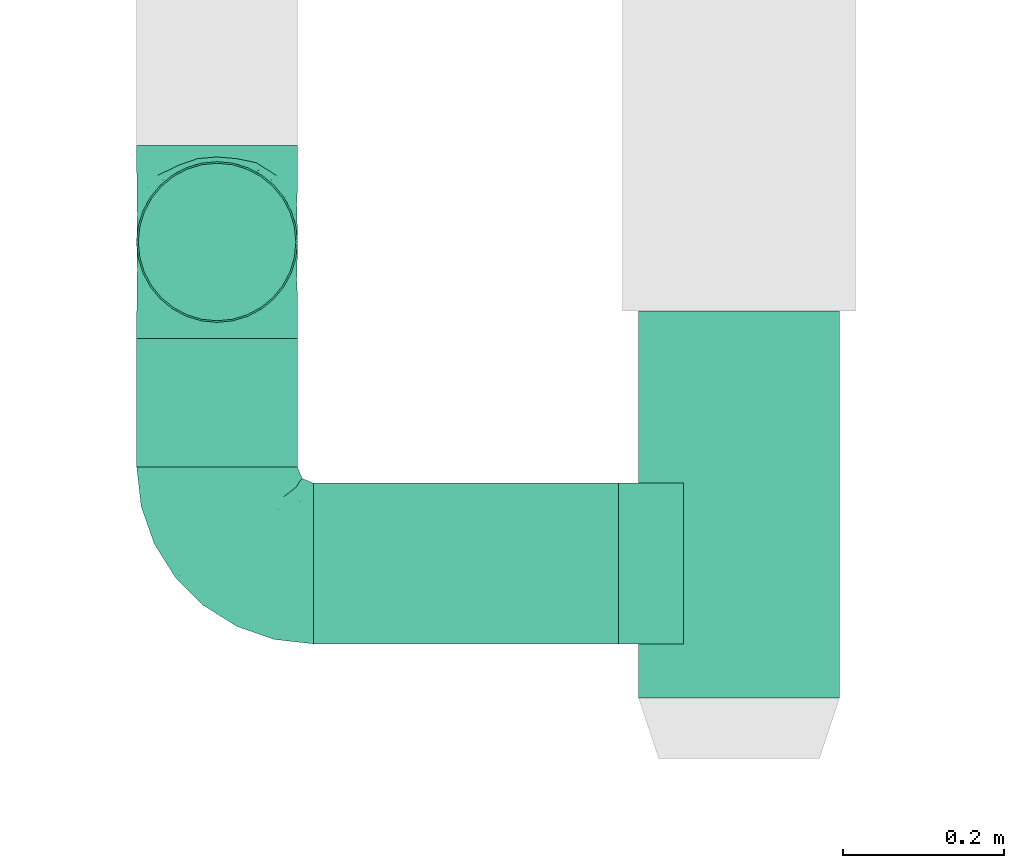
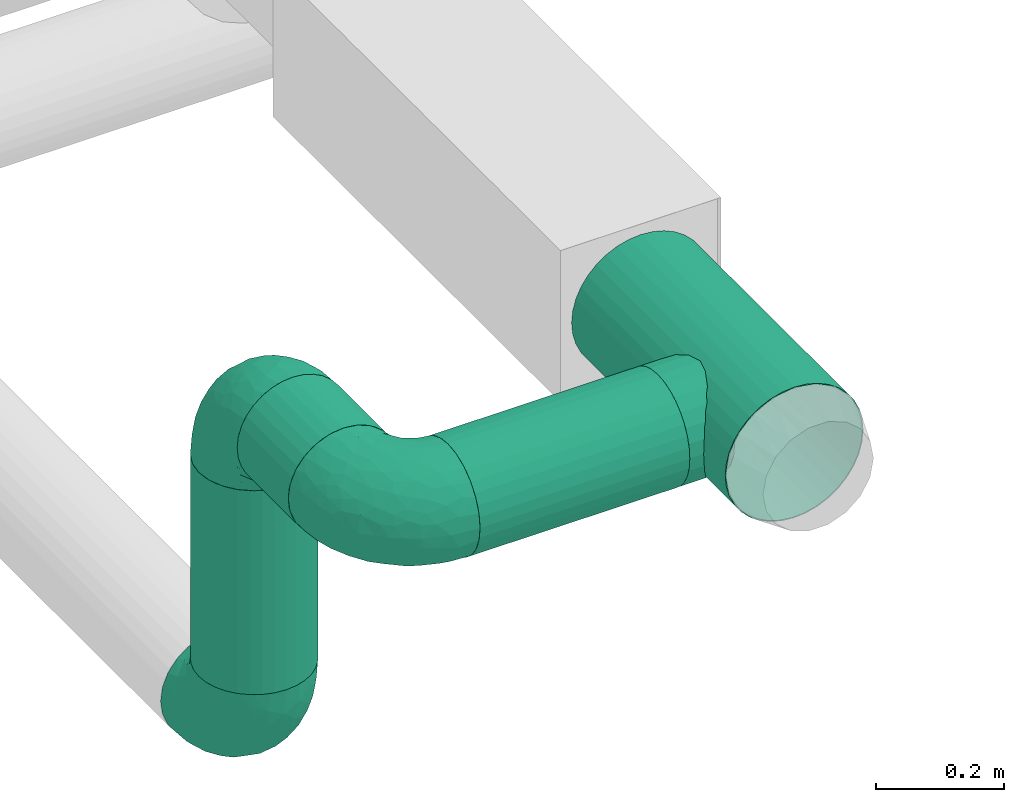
# One storey, part 2 of 31: 4 flow fittings, 4 flow segments.
"""IFC2X3 building model written with IfcOpenShell, lengths in millimetres."""

from ifc_helpers import new_model, entity, si_unit, converted_unit, derived_unit, direction, frame, origin_with_axes, origin_2d_with_axis, place, context, subcontext, project, spatial, hollow_circle, extrude, open_shell, surface_model, source, transform, mapped, type_object, element, save


model = new_model("IFC2X3")

# Units and contexts
model_context = context("Model", 3, precision=0.01, world=frame((0.0, 4.29681676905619e-09, 0.0)), true_north=direction((4.01073788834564e-13, 1.0)))
plan_context = context("Plan", 3, precision=0.01, world=frame((0.0, 4.29681676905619e-09, 0.0)), true_north=direction((4.01073788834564e-13, 1.0)))
body_context = subcontext(model_context, "Body", "Model", "MODEL_VIEW")
ifc_project = project(units=[converted_unit("PLANEANGLEUNIT", "DEGREE", entity("IfcPositiveLengthMeasure", 0.0174532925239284), si_unit("PLANEANGLEUNIT", "RADIAN"), dimensions=[0, 0, 0, 0, 0, 0, 0]), si_unit("AREAUNIT", "SQUARE_METRE"), si_unit("LENGTHUNIT", "METRE", prefix="MILLI"), si_unit("MASSUNIT", "GRAM", prefix="KILO"), si_unit("POWERUNIT", "WATT"), si_unit("PRESSUREUNIT", "PASCAL", prefix="KILO"), si_unit("FORCEUNIT", "NEWTON", prefix="KILO"), si_unit("ELECTRICVOLTAGEUNIT", "VOLT"), si_unit("ELECTRICCURRENTUNIT", "AMPERE"), si_unit("THERMODYNAMICTEMPERATUREUNIT", "DEGREE_CELSIUS"), si_unit("TIMEUNIT", "SECOND"), si_unit("VOLUMEUNIT", "CUBIC_METRE"), derived_unit("LINEARVELOCITYUNIT", [(si_unit("LENGTHUNIT", "METRE"), 1), (si_unit("TIMEUNIT", "SECOND"), -1)]), derived_unit("VOLUMETRICFLOWRATEUNIT", [(si_unit("VOLUMEUNIT", "CUBIC_METRE"), 1), (si_unit("TIMEUNIT", "SECOND"), -1)]), derived_unit("THERMALTRANSMITTANCEUNIT", [(si_unit("POWERUNIT", "WATT"), 1), (si_unit("THERMODYNAMICTEMPERATUREUNIT", "KELVIN"), -1), (si_unit("AREAUNIT", "SQUARE_METRE"), -1)]), derived_unit("SOUNDPRESSUREUNIT", [(si_unit("PRESSUREUNIT", "PASCAL"), 1)])], contexts=[model_context, plan_context])

# Site, building, storey
site_placement = place(None, frame((0.0, -4.29681676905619e-09, 0.0), z_axis=(0.0, 0.0, 1.0), x_axis=(1.0, 0.0, 0.0)))
site = spatial("IfcSite", under=ifc_project, at=site_placement, CompositionType="ELEMENT")
building_placement = place(site_placement, frame((0.0, 4.29681676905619e-09, 0.0), z_axis=(0.0, 0.0, 1.0), x_axis=(1.0, 0.0, 0.0)))
building = spatial("IfcBuilding", under=site, at=building_placement, Name="mc-building", CompositionType="ELEMENT")
storey_placement = place(building_placement, frame((0.0, 0.0, 210900.0), z_axis=(0.0, 0.0, 1.0), x_axis=(1.0, 0.0, 0.0)))
storey = spatial("IfcBuildingStorey", under=building, at=storey_placement, Name="Nivå F", CompositionType="ELEMENT", Elevation=210900.0)

# Flow fittings
duct_fitting_type_1 = type_object("IfcDuctFittingType", Name="magicirc_elbow_short_001", PredefinedType="BEND")
shared_shape_1 = source(origin_with_axes(), body_context, "Body", "SurfaceModel", [
    surface_model("IfcShellBasedSurfaceModel", [(-120.0, 0.0, -100.0), (-120.0, -86.60254, -50.0), (-120.0, 25.8819, -96.59259), (-120.0, 50.0, -86.60254), (-120.0, 70.71068, -70.71068), (-120.0, 96.59259, -25.8819), (-120.0, 86.60254, -50.0), (-120.0, -50.0, -86.60254), (-120.0, -70.71068, -70.71068), (-120.0, -25.8819, -96.59259), (-120.0, -96.59259, -25.8819), (-120.0, -100.0, 0.0), (-120.0, 96.59259, 25.8819), (-120.0, -96.59259, 25.8819), (-120.0, 86.60254, 50.0), (-120.0, 25.8819, 96.59259), (-120.0, 50.0, 86.60254), (-120.0, 70.71068, 70.71068), (-120.0, -25.8819, 96.59259), (-120.0, -70.71068, 70.71068), (-120.0, -50.0, 86.60254), (-120.0, -86.60254, 50.0), (-120.0, 0.0, 100.0), (-120.0, 100.0, 0.0), (-25.8819, 120.0, -96.59259), (70.71068, 120.0, -70.71068), (0.0, 120.0, -100.0), (-70.71068, 120.0, -70.71068), (-50.0, 120.0, -86.60254), (-86.60254, 120.0, -50.0), (-96.59259, 120.0, -25.8819), (86.60254, 120.0, -50.0), (25.8819, 120.0, -96.59259), (50.0, 120.0, -86.60254), (100.0, 120.0, 0.0), (96.59259, 120.0, -25.8819), (-96.59259, 120.0, 25.8819), (96.59259, 120.0, 25.8819), (-25.8819, 120.0, 96.59259), (-86.60254, 120.0, 50.0), (-70.71068, 120.0, 70.71068), (-50.0, 120.0, 86.60254), (25.8819, 120.0, 96.59259), (86.60254, 120.0, 50.0), (50.0, 120.0, 86.60254), (70.71068, 120.0, 70.71068), (0.0, 120.0, 100.0), (-100.0, 120.0, 0.0), (-57.47657, 95.22229, 84.95805), (-85.33946, -92.96309, 28.79275), (-95.20929, -97.20676, 0.0), (-84.48473, -65.01559, 72.95431), (-52.96075, -70.60035, 57.16979), (-58.29219, -58.77958, 72.2572), (-71.0454, -94.48414, 0.0), (-33.46621, 86.30074, 96.24781), (-7.45333, 88.76819, 99.94878), (-26.53059, -25.83103, 84.66541), (5.23459, -24.1841, 70.44192), (-1.23107, 1.23105, 87.74618), (-103.71213, 103.71213, 24.44784), (-95.28171, 98.70414, 48.64074), (-78.83961, -43.63421, 87.3226), (48.45058, -8.12007, 40.03254), (39.62941, -27.51041, 22.8702), (55.13075, -9.11298, 21.86769), (27.15427, -27.15428, 47.29752), (-0.9865, -46.35038, 53.41318), (-49.25997, -85.42957, 23.21428), (-69.41482, -80.94006, 48.93369), (34.63169, 2.36241, 66.9375), (-59.03727, -17.74459, 95.19283), (-92.36993, -18.34983, 97.75252), (-98.24586, -81.70799, 55.95793), (-87.21661, 7.38787, 99.96319), (-79.82304, 33.86298, 96.83649), (-103.25245, 34.36931, 94.48617), (-49.8635, 16.95363, 99.89181), (-93.99414, 57.52782, 85.21417), (-13.524, 31.6217, 98.29715), (-30.34675, -2.85909, 94.71053), (-102.74619, 77.59979, 67.01377), (-105.2102, 88.7141, 52.03645), (94.48414, 71.0454, 0.0), (92.96309, 85.33946, 28.79275), (85.42957, 49.25997, 23.21428), (18.34983, 92.36993, 97.75252), (-37.44754, -44.66633, 76.66985), (-66.8783, 56.54931, 92.80405), (65.01559, 84.48473, 72.95431), (43.6342, 78.83961, 87.3226), (37.67702, 38.38344, 81.78155), (58.58205, 33.30331, 61.93165), (58.77958, 58.29217, 72.2572), (14.52663, -47.57763, 31.54394), (81.70799, 98.24586, 55.95793), (97.20676, 95.20929, 0.0), (75.2275, 38.8764, 40.54554), (80.94006, 69.41482, 48.93369), (-19.32309, 64.21329, 99.87988), (-105.85786, 105.85786, 0.0), (17.74458, 59.03726, 95.19283), (70.60036, 52.96074, 57.16978), (-82.76473, 82.76473, 73.92657), (-77.59979, 102.74619, 67.01377), (-38.87641, -75.2275, 40.54555), (-40.86148, 50.04827, 98.96107), (-25.82378, -76.70765, 19.45345), (-49.50418, 71.23352, 93.94065), (-57.3172, 35.12243, 98.9453), (65.10804, 3.68891, 0.0), (65.80674, 11.30259, 30.40508), (15.01777, 28.10412, 90.12797), (-0.1518, 65.0789, 99.29745), (-47.79548, -86.34864, 0.0), (-67.45496, 75.91085, 85.7741), (-3.68891, -65.10804, 0.0), (17.16776, -52.00293, 0.0), (-11.30259, -65.80674, 30.40508), (-24.54558, -78.21315, 0.0), (76.76895, 27.91333, 23.28633), (86.34864, 47.79548, 0.0), (58.40844, 13.74403, 48.13414), (52.00293, -17.16776, 0.0), (20.33542, 8.19535, 80.42602), (-51.11653, -33.50476, 87.58865), (-33.30333, -58.58206, 61.93166), (-17.26255, -60.80757, 47.57586), (78.21315, 24.54558, 0.0), (34.58534, -34.58534, 0.0), (-86.30074, 33.4662, -96.24781), (-34.36932, 103.25245, -94.48617), (-11.30259, -65.80673, -30.40508), (9.11298, -55.13075, -21.86769), (-98.24586, -81.70799, -55.95793), (-88.7682, 7.45333, -99.94878), (43.63421, 78.83961, -87.3226), (-98.70414, 95.28171, -48.64074), (-82.76473, 82.76473, -73.92657), (-102.74619, 77.59979, -67.01377), (85.42957, 49.25997, -23.21428), (75.22749, 38.8764, -40.54555), (80.94006, 69.41482, -48.93369), (27.15427, -27.15428, -47.29753), (47.57763, -14.52663, -31.54396), (27.51041, -39.62941, -22.8702), (-71.23352, 49.50417, -93.94066), (-56.54932, 66.8783, -92.80405), (-50.04827, 40.86148, -98.96107), (-33.86298, 79.82303, -96.83649), (-57.52782, 93.99414, -85.21417), (-16.95364, 49.8635, -99.89182), (-31.6217, 13.52399, -98.29715), (-85.33946, -92.96309, -28.79275), (24.18408, -5.23461, -70.44192), (46.35038, 0.9865, -53.41318), (65.01559, 84.48472, -72.95431), (-84.48473, -65.01559, -72.95431), (-78.83961, -43.63421, -87.3226), (-103.71213, 103.71213, -24.44784), (-95.22229, 57.47657, -84.95805), (-49.25997, -85.42957, -23.21428), (-92.36993, -18.34984, -97.75252), (-38.87641, -75.2275, -40.54555), (-69.41482, -80.94006, -48.93369), (-88.7141, 105.2102, -52.03645), (-7.38786, 87.21659, -99.96319), (17.74459, 59.03726, -95.19283), (-33.30333, -58.58206, -61.93166), (-52.96075, -70.60035, -57.16979), (-77.59979, 102.74619, -67.01377), (-38.38346, -37.67703, -81.78155), (-2.36242, -34.6317, -66.93751), (18.34983, 92.36993, -97.75252), (81.70799, 98.24586, -55.95793), (8.12006, -48.45058, -40.03254), (-1.23106, 1.23105, -87.74618), (25.83103, 26.53058, -84.6654), (92.96309, 85.33946, -28.79275), (76.70765, 25.82378, -19.45345), (-59.03727, -17.74459, -95.19283), (2.8591, 30.34673, -94.71053), (-64.21329, 19.32309, -99.87988), (58.77958, 58.29219, -72.2572), (70.60035, 52.96075, -57.16979), (-58.29219, -58.77958, -72.2572), (-35.12244, 57.3172, -98.9453), (44.66633, 37.44754, -76.66985), (-28.10413, -15.01778, -90.12797), (-65.07891, 0.1518, -99.29745), (-75.91086, 67.45496, -85.7741), (-27.91333, -76.76895, -23.28633), (-13.74403, -58.40844, -48.13415), (65.80673, 11.30258, -30.40508), (-8.19536, -20.33543, -80.42602), (33.50476, 51.11653, -87.58865), (58.58205, 33.30333, -61.93166), (60.80757, 17.26255, -47.57586)], [open_shell([[[0, 1, 2]], [[3, 2, 4]], [[5, 6, 4]], [[1, 4, 2]], [[4, 1, 5]], [[7, 8, 9]], [[8, 0, 9]], [[10, 11, 1]], [[1, 0, 8]], [[1, 11, 5]], [[11, 12, 5]], [[12, 11, 13]], [[14, 12, 15]], [[15, 16, 17]], [[14, 15, 17]], [[15, 12, 18]], [[19, 20, 21]], [[13, 21, 20]], [[13, 20, 12]], [[20, 18, 12]], [[18, 22, 15]], [[23, 5, 12]], [[24, 25, 26]], [[27, 24, 28]], [[27, 29, 30]], [[24, 27, 31]], [[30, 31, 27]], [[32, 25, 33]], [[32, 26, 25]], [[31, 34, 35]], [[25, 24, 31]], [[30, 34, 31]], [[30, 36, 34]], [[37, 34, 36]], [[38, 36, 39]], [[40, 41, 38]], [[40, 38, 39]], [[42, 36, 38]], [[43, 44, 45]], [[44, 43, 37]], [[36, 44, 37]], [[36, 42, 44]], [[38, 46, 42]], [[36, 30, 47]], [[41, 40, 48]], [[49, 13, 50]], [[49, 21, 13]], [[51, 52, 53]], [[50, 54, 49]], [[38, 55, 56]], [[57, 58, 59]], [[60, 61, 36]], [[20, 51, 62]], [[63, 64, 65]], [[66, 58, 67]], [[49, 68, 69]], [[20, 19, 51]], [[58, 66, 70]], [[62, 71, 72]], [[22, 18, 72]], [[73, 19, 21]], [[74, 75, 76]], [[75, 74, 77]], [[16, 76, 78]], [[79, 77, 80]], [[17, 81, 14]], [[82, 12, 14]], [[81, 82, 14]], [[23, 12, 60]], [[83, 84, 85]], [[16, 78, 17]], [[41, 48, 55]], [[42, 46, 86]], [[53, 87, 62]], [[18, 20, 62]], [[75, 88, 78]], [[89, 45, 44]], [[86, 90, 42]], [[60, 12, 82]], [[44, 42, 90]], [[91, 92, 93]], [[84, 37, 43]], [[66, 94, 64]], [[90, 89, 44]], [[45, 95, 43]], [[84, 96, 37]], [[97, 85, 98]], [[15, 76, 16]], [[99, 56, 55]], [[100, 23, 60]], [[91, 90, 101]], [[100, 60, 47]], [[92, 97, 102]], [[103, 104, 61]], [[68, 105, 69]], [[106, 77, 79]], [[61, 39, 36]], [[40, 39, 104]], [[15, 22, 74]], [[107, 105, 68]], [[108, 88, 106]], [[55, 38, 41]], [[56, 46, 38]], [[92, 91, 70]], [[109, 77, 106]], [[110, 111, 65]], [[74, 71, 77]], [[72, 74, 22]], [[80, 71, 57]], [[75, 109, 88]], [[81, 78, 103]], [[112, 79, 59]], [[113, 56, 99]], [[68, 54, 114]], [[73, 49, 69]], [[95, 84, 43]], [[85, 84, 98]], [[104, 48, 40]], [[115, 88, 108]], [[108, 99, 55]], [[56, 113, 86]], [[102, 93, 92]], [[95, 89, 98]], [[73, 51, 19]], [[52, 69, 105]], [[116, 117, 118]], [[68, 119, 107]], [[107, 116, 118]], [[67, 94, 66]], [[97, 111, 120]], [[85, 121, 83]], [[70, 63, 122]], [[65, 123, 110]], [[101, 112, 91]], [[66, 64, 63]], [[124, 91, 112]], [[70, 124, 58]], [[59, 80, 57]], [[58, 87, 67]], [[57, 125, 87]], [[58, 57, 87]], [[99, 108, 106]], [[78, 88, 115]], [[56, 86, 46]], [[90, 86, 101]], [[62, 72, 18]], [[74, 72, 71]], [[61, 104, 39]], [[104, 103, 115]], [[78, 81, 17]], [[82, 103, 61]], [[126, 127, 67]], [[67, 127, 94]], [[85, 128, 121]], [[94, 129, 64]], [[110, 120, 111]], [[63, 65, 111]], [[122, 63, 111]], [[70, 66, 63]], [[79, 80, 59]], [[77, 71, 80]], [[106, 79, 99]], [[113, 79, 101]], [[55, 48, 108]], [[48, 104, 115]], [[48, 115, 108]], [[78, 115, 103]], [[127, 105, 118]], [[105, 127, 52]], [[53, 52, 126]], [[51, 69, 52]], [[87, 53, 126]], [[62, 51, 53]], [[87, 126, 67]], [[57, 71, 125]], [[71, 62, 125]], [[62, 87, 125]], [[102, 97, 98]], [[122, 97, 92]], [[98, 89, 102]], [[93, 102, 89]], [[89, 90, 93]], [[91, 93, 90]], [[97, 122, 111]], [[70, 122, 92]], [[79, 113, 99]], [[86, 113, 101]], [[64, 123, 65]], [[85, 97, 120]], [[79, 112, 101]], [[120, 110, 128]], [[124, 112, 59]], [[58, 124, 59]], [[91, 124, 70]], [[103, 82, 81]], [[82, 61, 60]], [[13, 11, 50]], [[96, 84, 83]], [[96, 34, 37]], [[47, 60, 36]], [[74, 76, 15]], [[78, 76, 75]], [[49, 73, 21]], [[51, 73, 69]], [[89, 95, 45]], [[84, 95, 98]], [[88, 109, 106]], [[75, 77, 109]], [[54, 68, 49]], [[114, 119, 68]], [[105, 107, 118]], [[107, 119, 116]], [[117, 94, 118]], [[127, 126, 52]], [[94, 127, 118]], [[129, 94, 117]], [[129, 123, 64]], [[128, 85, 120]], [[3, 130, 2]], [[24, 131, 28]], [[132, 133, 116]], [[8, 134, 1]], [[2, 135, 0]], [[32, 33, 136]], [[137, 138, 139]], [[140, 141, 142]], [[6, 139, 4]], [[143, 144, 145]], [[6, 5, 137]], [[146, 147, 148]], [[149, 147, 150]], [[148, 151, 152]], [[1, 153, 10]], [[143, 154, 155]], [[153, 50, 10]], [[33, 25, 156]], [[157, 7, 158]], [[159, 137, 5]], [[8, 7, 157]], [[7, 9, 158]], [[3, 4, 160]], [[35, 34, 96]], [[54, 153, 161]], [[9, 162, 158]], [[163, 161, 164]], [[165, 30, 29]], [[23, 100, 159]], [[166, 167, 151]], [[47, 30, 159]], [[168, 163, 169]], [[29, 170, 165]], [[24, 26, 166]], [[168, 171, 172]], [[27, 170, 29]], [[149, 131, 166]], [[160, 130, 3]], [[149, 166, 151]], [[136, 167, 173]], [[174, 25, 31]], [[27, 28, 150]], [[28, 131, 150]], [[32, 173, 26]], [[136, 33, 156]], [[154, 143, 172]], [[2, 130, 135]], [[133, 175, 145]], [[154, 176, 177]], [[9, 0, 162]], [[140, 142, 178]], [[179, 141, 140]], [[96, 83, 178]], [[35, 96, 178]], [[171, 158, 180]], [[152, 151, 181]], [[182, 135, 130]], [[183, 156, 184]], [[171, 168, 185]], [[178, 31, 35]], [[173, 166, 26]], [[159, 5, 23]], [[149, 151, 186]], [[183, 187, 136]], [[181, 167, 177]], [[149, 186, 147]], [[170, 150, 138]], [[188, 152, 176]], [[189, 135, 182]], [[134, 153, 1]], [[161, 153, 164]], [[140, 83, 121]], [[174, 178, 142]], [[139, 160, 4]], [[190, 147, 146]], [[146, 182, 130]], [[135, 189, 162]], [[169, 185, 168]], [[134, 157, 164]], [[174, 156, 25]], [[184, 142, 141]], [[163, 132, 191]], [[161, 114, 54]], [[172, 175, 192]], [[133, 117, 116]], [[110, 123, 193]], [[140, 128, 179]], [[179, 110, 193]], [[155, 144, 143]], [[180, 188, 171]], [[143, 145, 175]], [[194, 171, 188]], [[172, 194, 154]], [[176, 181, 177]], [[154, 187, 155]], [[177, 195, 187]], [[154, 177, 187]], [[182, 146, 148]], [[150, 147, 190]], [[135, 162, 0]], [[158, 162, 180]], [[136, 173, 32]], [[166, 173, 167]], [[137, 139, 6]], [[139, 138, 190]], [[150, 170, 27]], [[165, 138, 137]], [[196, 197, 155]], [[155, 197, 144]], [[197, 196, 184]], [[144, 129, 145]], [[116, 191, 132]], [[175, 133, 132]], [[192, 175, 132]], [[172, 143, 175]], [[152, 181, 176]], [[151, 167, 181]], [[148, 152, 182]], [[189, 152, 180]], [[130, 160, 146]], [[160, 139, 190]], [[160, 190, 146]], [[150, 190, 138]], [[169, 163, 164]], [[192, 163, 168]], [[164, 157, 169]], [[185, 169, 157]], [[157, 158, 185]], [[171, 185, 158]], [[197, 141, 193]], [[141, 197, 184]], [[183, 184, 196]], [[156, 142, 184]], [[187, 183, 196]], [[136, 156, 183]], [[187, 196, 155]], [[177, 167, 195]], [[167, 136, 195]], [[136, 187, 195]], [[163, 192, 132]], [[172, 192, 168]], [[152, 189, 182]], [[162, 189, 180]], [[145, 117, 133]], [[161, 163, 191]], [[152, 188, 180]], [[191, 116, 119]], [[194, 188, 176]], [[154, 194, 176]], [[171, 194, 172]], [[138, 165, 170]], [[165, 137, 159]], [[50, 153, 54]], [[50, 11, 10]], [[47, 159, 100]], [[159, 30, 165]], [[166, 131, 24]], [[150, 131, 149]], [[178, 174, 31]], [[156, 174, 142]], [[157, 134, 8]], [[153, 134, 164]], [[151, 148, 186]], [[147, 186, 148]], [[161, 119, 114]], [[83, 140, 178]], [[121, 128, 140]], [[141, 179, 193]], [[179, 128, 110]], [[123, 144, 193]], [[144, 197, 193]], [[129, 144, 123]], [[129, 117, 145]], [[119, 161, 191]]])]),
])
for number, where, z_axis, x_axis, name in (
    (1, (714683.20737, 436949.29092, 3320.0), (-1.0, 0.0, 0.0), (0.0, -1.0, 0.0), "magicirc_elbow_short_001"),
    (2, (714683.20737, 436949.29092, 3950.0), (1.0, 0.0, 0.0), (0.0, 0.0, 1.0), "magicirc_elbow_short_001"),
    (3, (714683.20737, 436549.29092, 3950.0), (0.0, 0.0, 1.0), (0.0, -1.0, 0.0), "magicirc_elbow_short_001"),
):
    element("IfcFlowFitting", number, at=place(storey_placement, frame(where, z_axis=z_axis, x_axis=x_axis)), inside=storey, type_object=duct_fitting_type_1, Name=name, context=body_context, shape_type="MappedRepresentation", body=[
        mapped(shared_shape_1, transform((0.0, 0.0, 0.0), scale=1.0)),
    ])
duct_fitting_type_2 = type_object("IfcDuctFittingType", Name="magicirc_tapoutlet_001", PredefinedType="CONNECTOR")
shared_shape_2 = source(origin_with_axes(), body_context, "Body", "SurfaceModel", [
    surface_model("IfcShellBasedSurfaceModel", [(25.0, 0.0, -100.0), (25.0, -50.0, -86.60254), (25.0, -25.8819, -96.59259), (-56.096, 100.0, 0.0), (-56.096, 96.59259, -25.8819), (-56.096, 96.59259, 25.8819), (0.0, -25.8819, 96.59259), (0.0, 0.0, 100.0), (-56.096, 0.0, 100.0), (-56.096, -100.0, 0.0), (0.0, -100.0, 0.0), (0.0, -96.59259, 25.8819), (-56.096, -96.59259, 25.8819), (0.0, -86.60254, 50.0), (-56.096, -86.60254, 50.0), (-56.096, -70.71068, -70.71068), (0.0, -70.71068, -70.71068), (-56.096, -86.60254, -50.0), (-56.096, 86.60254, -50.0), (0.0, 70.71068, -70.71068), (-56.096, 70.71068, -70.71068), (0.0, 96.59259, 25.8819), (0.0, 100.0, 0.0), (0.0, 86.60254, 50.0), (-56.096, 86.60254, 50.0), (0.0, 25.8819, 96.59259), (25.0, -100.0, 0.0), (25.0, -96.59259, -25.8819), (25.0, -96.59259, 25.8819), (25.0, 25.8819, -96.59259), (25.0, 100.0, 0.0), (25.0, 50.0, -86.60254), (25.0, 70.71068, -70.71068), (25.0, 86.60254, -50.0), (25.0, -70.71068, -70.71068), (25.0, -86.60254, -50.0), (25.0, 96.59259, -25.8819), (25.0, 96.59259, 25.8819), (25.0, 86.60254, 50.0), (25.0, 70.71068, 70.71068), (25.0, 25.8819, 96.59259), (25.0, 50.0, 86.60254), (25.0, -25.8819, 96.59259), (25.0, -70.71068, 70.71068), (25.0, -86.60254, 50.0), (25.0, -50.0, 86.60254), (25.0, 0.0, 100.0), (0.0, 50.0, 86.60254), (0.0, 70.71068, 70.71068), (0.0, 96.59259, -25.8819), (0.0, 86.60254, -50.0), (0.0, 25.8819, -96.59259), (0.0, 50.0, -86.60254), (0.0, 0.0, -100.0), (0.0, -25.8819, -96.59259), (0.0, -50.0, -86.60254), (0.0, -86.60254, -50.0), (0.0, -96.59259, -25.8819), (0.0, -70.71068, 70.71068), (0.0, -50.0, 86.60254), (-56.096, 0.0, -100.0), (-56.096, -25.8819, -96.59259), (-56.096, 25.8819, -96.59259), (-56.096, 50.0, -86.60254), (-56.096, -50.0, -86.60254), (-56.096, -96.59259, -25.8819), (-56.096, 70.71068, 70.71068), (-56.096, 50.0, 86.60254), (-56.096, 25.8819, 96.59259), (-56.096, -70.71068, 70.71068), (-56.096, -25.8819, 96.59259), (-56.096, -50.0, 86.60254)], [open_shell([[[0, 1, 2]], [[3, 4, 5]], [[6, 7, 8]], [[9, 10, 11]], [[12, 11, 13]], [[14, 12, 13]], [[15, 16, 17]], [[18, 19, 20]], [[21, 22, 3]], [[23, 21, 5]], [[23, 5, 24]], [[8, 7, 25]], [[26, 27, 28]], [[29, 30, 0]], [[31, 30, 29]], [[30, 32, 33]], [[30, 31, 32]], [[34, 0, 28]], [[0, 34, 1]], [[35, 28, 27]], [[28, 35, 34]], [[30, 33, 36]], [[37, 38, 0]], [[38, 39, 0]], [[40, 0, 41]], [[0, 39, 41]], [[0, 40, 42]], [[0, 43, 44]], [[28, 0, 44]], [[0, 45, 43]], [[42, 45, 0]], [[40, 46, 42]], [[37, 0, 30]], [[7, 46, 40]], [[25, 40, 41]], [[7, 40, 25]], [[47, 39, 48]], [[47, 25, 41]], [[39, 47, 41]], [[23, 38, 37]], [[21, 37, 30]], [[48, 38, 23]], [[21, 23, 37]], [[22, 21, 30]], [[38, 48, 39]], [[22, 30, 36]], [[49, 36, 33]], [[22, 36, 49]], [[50, 32, 19]], [[50, 49, 33]], [[32, 50, 33]], [[29, 0, 51]], [[31, 29, 52]], [[19, 31, 52]], [[53, 51, 0]], [[29, 51, 52]], [[31, 19, 32]], [[53, 0, 2]], [[54, 2, 1]], [[53, 2, 54]], [[55, 34, 16]], [[55, 54, 1]], [[34, 55, 1]], [[56, 35, 27]], [[57, 27, 26]], [[16, 35, 56]], [[57, 56, 27]], [[10, 57, 26]], [[35, 16, 34]], [[10, 26, 28]], [[11, 28, 44]], [[10, 28, 11]], [[13, 43, 58]], [[13, 11, 44]], [[43, 13, 44]], [[59, 45, 42]], [[6, 42, 46]], [[58, 45, 59]], [[6, 59, 42]], [[7, 6, 46]], [[45, 58, 43]], [[38, 0, 37]], [[0, 38, 41]], [[41, 38, 39]], [[42, 0, 40]], [[0, 44, 28]], [[43, 44, 0]], [[43, 0, 45]], [[60, 61, 62]], [[62, 5, 63]], [[18, 20, 5]], [[5, 20, 63]], [[62, 9, 12]], [[15, 9, 64]], [[62, 61, 64]], [[65, 9, 17]], [[15, 17, 9]], [[64, 9, 62]], [[4, 18, 5]], [[24, 5, 62]], [[62, 66, 24]], [[67, 62, 68]], [[67, 66, 62]], [[8, 68, 62]], [[14, 69, 62]], [[62, 12, 14]], [[70, 8, 71]], [[62, 69, 71]], [[71, 8, 62]], [[68, 25, 47]], [[8, 25, 68]], [[67, 48, 66]], [[67, 68, 47]], [[48, 67, 47]], [[66, 23, 24]], [[3, 5, 21]], [[23, 66, 48]], [[3, 22, 49]], [[4, 49, 50]], [[3, 49, 4]], [[18, 4, 50]], [[19, 18, 50]], [[62, 52, 51]], [[60, 51, 53]], [[20, 52, 63]], [[62, 63, 52]], [[60, 62, 51]], [[52, 20, 19]], [[60, 53, 54]], [[61, 54, 55]], [[60, 54, 61]], [[64, 16, 15]], [[64, 61, 55]], [[16, 64, 55]], [[65, 56, 57]], [[9, 57, 10]], [[65, 17, 56]], [[57, 9, 65]], [[17, 16, 56]], [[9, 11, 12]], [[14, 58, 69]], [[58, 14, 13]], [[59, 6, 71]], [[71, 69, 59]], [[70, 71, 6]], [[6, 8, 70]], [[59, 69, 58]]])]),
])
flow_fitting_placement = place(storey_placement, frame((715207.69489, 436549.29092, 3950.0), z_axis=(0.0, 0.0, -1.0), x_axis=(-1.0, 0.0, 0.0)))
element("IfcFlowFitting", 4, at=flow_fitting_placement, inside=storey, type_object=duct_fitting_type_2, Name="magicirc_tapoutlet_001", context=body_context, shape_type="MappedRepresentation", body=[
    mapped(shared_shape_2, transform((0.0, 0.0, 0.0), scale=1.0)),
])

# Flow segments
duct_segment_type = type_object("IfcDuctSegmentType", Name="KK001T - Spiro kanaler, Forsinket stål", PredefinedType="RIGIDSEGMENT")
shared_shape_3 = source(origin_with_axes(), body_context, "Body", "SweptSolid", [
    extrude(hollow_circle(Radius=100.0, WallThickness=2.0, at=origin_2d_with_axis()), frame((0.0, 0.0, 0.0), z_axis=(1.0, 0.0, 0.0), x_axis=(0.0, 1.0, 0.0)), (0.0, 0.0, 1.0), 160.0),
])
flow_segment_1_placement = place(storey_placement, frame((714683.20737, 436829.29092, 3950.0), z_axis=(0.0, 0.0, 1.0), x_axis=(0.0, -1.0, 0.0)))
element("IfcFlowSegment", 5, at=flow_segment_1_placement, inside=storey, type_object=duct_segment_type, Name="KK001T - Spiro kanaler, Forsinket stål", context=body_context, shape_type="MappedRepresentation", body=[
    mapped(shared_shape_3, transform((0.0, 0.0, 0.0), scale=1.0)),
])
shared_shape_4 = source(origin_with_axes(), body_context, "Body", "SweptSolid", [
    extrude(hollow_circle(Radius=100.0, WallThickness=2.0, at=origin_2d_with_axis()), frame((0.0, 0.0, 0.0), z_axis=(1.0, 0.0, 0.0), x_axis=(0.0, 1.0, 0.0)), (0.0, 0.0, 1.0), 390.0),
])
flow_segment_2_placement = place(storey_placement, frame((714683.20737, 436949.29092, 3440.0), z_axis=(0.0, 1.0, 0.0), x_axis=(0.0, 0.0, 1.0)))
element("IfcFlowSegment", 6, at=flow_segment_2_placement, inside=storey, type_object=duct_segment_type, Name="KK001T - Spiro kanaler, Forsinket stål", context=body_context, shape_type="MappedRepresentation", body=[
    mapped(shared_shape_4, transform((0.0, 0.0, 0.0), scale=1.0)),
])
shared_shape_5 = source(origin_with_axes(), body_context, "Body", "SweptSolid", [
    extrude(hollow_circle(Radius=100.0, WallThickness=2.0, at=origin_2d_with_axis()), frame((0.0, 0.0, 0.0), z_axis=(1.0, 0.0, 0.0), x_axis=(0.0, 1.0, 0.0)), (0.0, 0.0, 1.0), 379.5),
])
flow_segment_3_placement = place(storey_placement, frame((714803.20737, 436549.29092, 3950.0), z_axis=(0.0, 0.0, 1.0), x_axis=(1.0, 0.0, 0.0)))
element("IfcFlowSegment", 7, at=flow_segment_3_placement, inside=storey, type_object=duct_segment_type, Name="KK001T - Spiro kanaler, Forsinket stål", context=body_context, shape_type="MappedRepresentation", body=[
    mapped(shared_shape_5, transform((0.0, 0.0, 0.0), scale=1.0)),
])
shared_shape_6 = source(origin_with_axes(), body_context, "Body", "SweptSolid", [
    extrude(hollow_circle(Radius=125.0, WallThickness=2.0, at=origin_2d_with_axis()), frame((0.0, 0.0, 0.0), z_axis=(1.0, 0.0, 0.0), x_axis=(0.0, 1.0, 0.0)), (0.0, 0.0, 1.0), 481.4),
])
flow_segment_4_placement = place(storey_placement, frame((715332.69489, 436863.15338, 3950.0), z_axis=(0.0, 0.0, 1.0), x_axis=(0.0, -1.0, 0.0)))
element("IfcFlowSegment", 8, at=flow_segment_4_placement, inside=storey, type_object=duct_segment_type, Name="KK001T - Spiro kanaler, Forsinket stål", context=body_context, shape_type="MappedRepresentation", body=[
    mapped(shared_shape_6, transform((0.0, 0.0, 0.0), scale=1.0)),
])

save(model, "model.ifc")
